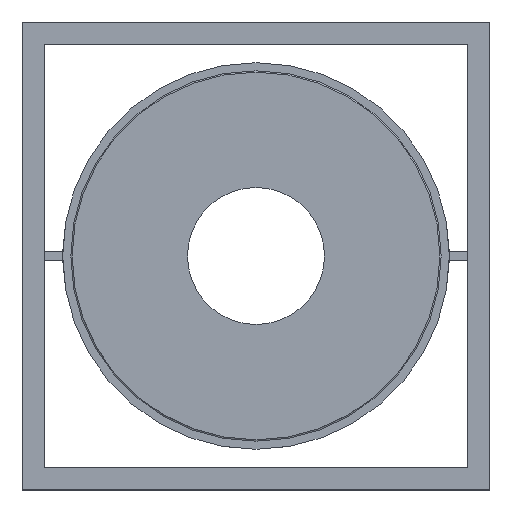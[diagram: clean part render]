
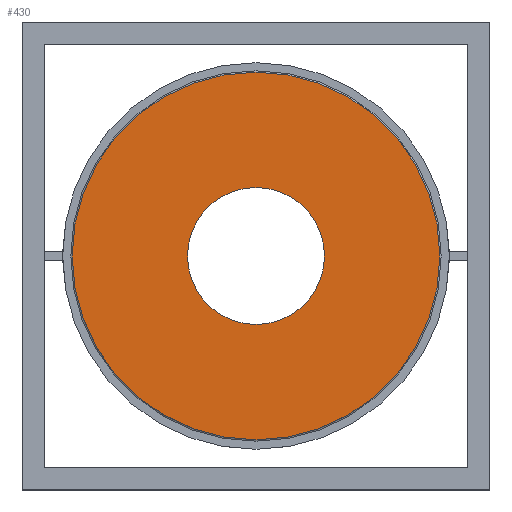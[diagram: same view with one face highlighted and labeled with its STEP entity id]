
A CAD part, top view. The second image highlights one B-rep face of the part: STEP entity #430.
In plain terms, the highlighted planar face has unit normal (0, 0, 1).
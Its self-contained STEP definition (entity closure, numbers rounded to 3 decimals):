
#196 = VERTEX_POINT('',#197);
#197 = CARTESIAN_POINT('',(37.5,21.,2.05));
#205 = EDGE_CURVE('',#196,#196,#206,.T.);
#206 = CIRCLE('',#207,16.5);
#207 = AXIS2_PLACEMENT_3D('',#208,#209,#210);
#208 = CARTESIAN_POINT('',(21.,21.,2.05));
#209 = DIRECTION('',(0.,0.,1.));
#210 = DIRECTION('',(1.,0.,0.));
#430 = ADVANCED_FACE('',(#431,#434),#445,.T.);
#431 = FACE_BOUND('',#432,.T.);
#432 = EDGE_LOOP('',(#433));
#433 = ORIENTED_EDGE('',*,*,#205,.T.);
#434 = FACE_BOUND('',#435,.T.);
#435 = EDGE_LOOP('',(#436));
#436 = ORIENTED_EDGE('',*,*,#437,.F.);
#437 = EDGE_CURVE('',#438,#438,#440,.T.);
#438 = VERTEX_POINT('',#439);
#439 = CARTESIAN_POINT('',(27.15,21.,2.05));
#440 = CIRCLE('',#441,6.15);
#441 = AXIS2_PLACEMENT_3D('',#442,#443,#444);
#442 = CARTESIAN_POINT('',(21.,21.,2.05));
#443 = DIRECTION('',(0.,0.,1.));
#444 = DIRECTION('',(1.,0.,0.));
#445 = PLANE('',#446);
#446 = AXIS2_PLACEMENT_3D('',#447,#448,#449);
#447 = CARTESIAN_POINT('',(21.,21.,2.05));
#448 = DIRECTION('',(0.,0.,1.));
#449 = DIRECTION('',(1.,0.,0.));
